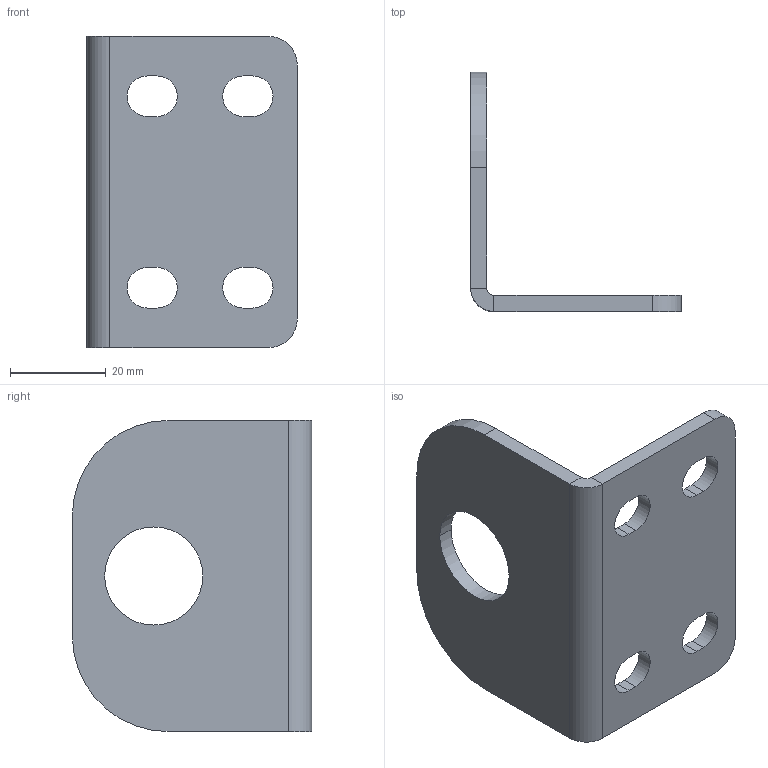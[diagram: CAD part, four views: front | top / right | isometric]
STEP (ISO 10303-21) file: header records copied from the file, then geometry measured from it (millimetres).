
FILE_DESCRIPTION (( 'STEP AP203' ), '1' );
FILE_NAME ('02.10045.STEP', '2012-10-08T17:30:50', ( 'Ricardo' ), ( '' ), 'SwSTEP 2.0', 'SolidWorks 2012', '' );
FILE_SCHEMA (( 'CONFIG_CONTROL_DESIGN' ));
Length unit declared in the file: millimetre
Products named in the file (1): 02.10045
Bounding box: 44 x 50 x 65 mm (x, y, z)
Volume: 16721.5 mm3; surface area: 11569.1 mm2
Topology: 1 solids, 1 shells, 36 faces, 94 edges, 60 vertices
Faces by surface type: plane 20, cylinder 16
Entity records: 1203 total; most frequent: DIRECTION 200, CARTESIAN_POINT 191, ORIENTED_EDGE 188, EDGE_CURVE 94, AXIS2_PLACEMENT_3D 69, LINE 62, VECTOR 62, VERTEX_POINT 60
